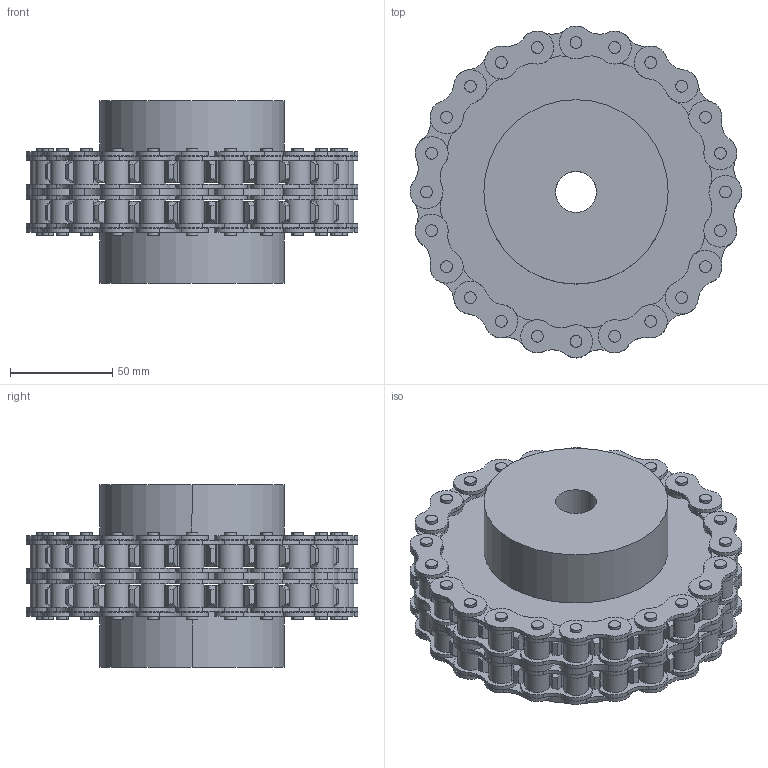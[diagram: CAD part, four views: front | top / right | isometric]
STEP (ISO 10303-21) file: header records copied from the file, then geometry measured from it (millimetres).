
FILE_DESCRIPTION((''),'2;1');
FILE_NAME('591-401-0024_SW0001','2021-01-25T',('Brieden'),('Brieden'),'PRO/ENGINEER BY PARAMETRIC TECHNOLOGY CORPORATION, 2010160','PRO/ENGINEER BY PARAMETRIC TECHNOLOGY CORPORATION, 2010160','');
FILE_SCHEMA(('AUTOMOTIVE_DESIGN { 1 0 10303 214 1 1 1 1 }'));
Length unit declared in the file: millimetre
Products named in the file (1): 591-401-0024_SW0001
Bounding box: 162.05 x 162.05 x 89 mm (x, y, z)
Volume: 726619.5 mm3; surface area: 204999.5 mm2
Topology: 38 solids, 50 shells, 1334 faces, 3316 edges, 2204 vertices
Faces by surface type: cylinder 824, plane 414, torus 96
Entity records: 44123 total; most frequent: DIRECTION 7710, CARTESIAN_POINT 7531, ORIENTED_EDGE 6632, EDGE_CURVE 3316, AXIS2_PLACEMENT_3D 3251, VERTEX_POINT 2204, CIRCLE 1916, EDGE_LOOP 1676
